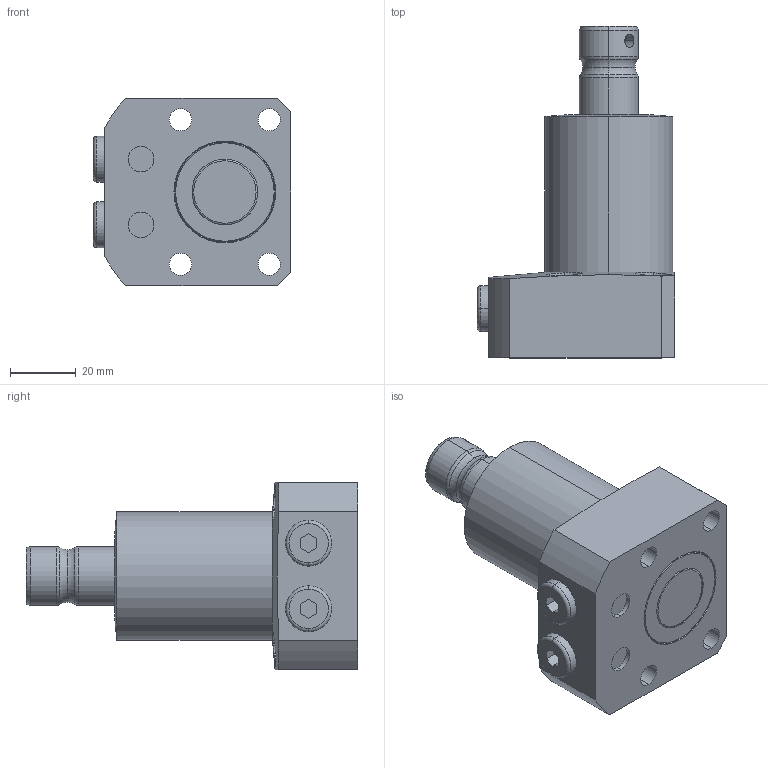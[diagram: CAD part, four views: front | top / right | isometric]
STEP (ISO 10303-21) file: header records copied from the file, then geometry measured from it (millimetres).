
FILE_DESCRIPTION (( 'STEP AP203' ), '1' );
FILE_NAME ('220801-CR.STEP', '2019-06-29T08:03:09', ( '微软用户' ), ( '微软中国' ), 'SwSTEP 2.0', 'SolidWorks 2014', '' );
FILE_SCHEMA (( 'CONFIG_CONTROL_DESIGN' ));
Length unit declared in the file: millimetre
Products named in the file (5): 葩璃 230801.04^220801-CR; 220801-CR; 葩璃 220801.02^220801-CR; 葩璃 230801.01^220801-CR; 葩璃 4BN-02WD^220801-CR
Assembly tree (5 placements, depth 2):
  220801-CR
    葩璃 220801.02^220801-CR
    葩璃 230801.01^220801-CR
    葩璃 4BN-02WD^220801-CR  x2
    葩璃 230801.04^220801-CR
Bounding box: 60 x 101 x 57 mm (x, y, z)
Volume: 154009.7 mm3; surface area: 27407.5 mm2
Topology: 5 solids, 5 shells, 140 faces, 294 edges, 182 vertices
Faces by surface type: cylinder 54, plane 46, torus 22, cone 18
Entity records: 4079 total; most frequent: CARTESIAN_POINT 988, DIRECTION 592, ORIENTED_EDGE 480, AXIS2_PLACEMENT_3D 250, EDGE_CURVE 240, VERTEX_POINT 150, EDGE_LOOP 138, CIRCLE 128
